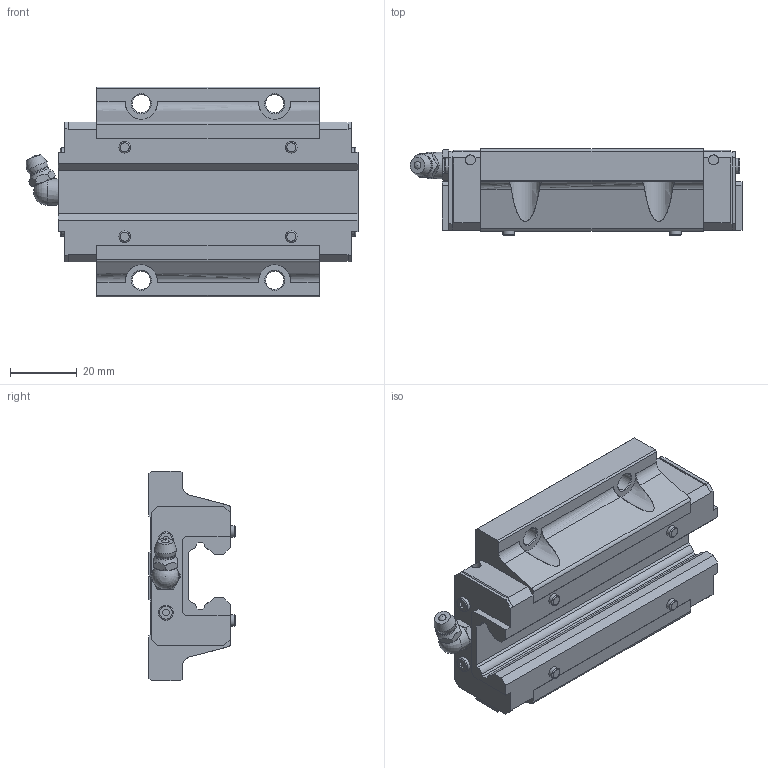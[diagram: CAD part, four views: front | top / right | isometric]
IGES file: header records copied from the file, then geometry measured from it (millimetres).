
Start section: Data from Parasolid IGES Translator 26.0.171, Copyright(c) 2006 Siemens PLM Software. All Rights Reserved.
Global section: file name: HSR20LC1SS(GK) BLOCK(1B-M6F).igs; native system: By Siemens PLM Incorporated; preprocessor: XPlus GENERIC/IGES 26.0.171; author: Noname; organization: Noname; date: 20240521.045839; units: millimetre
Bounding box: 99.6 x 26 x 63 mm (x, y, z)
Surface area: 20471.7 mm2 (no closed solid volume)
Topology: 0 solids, 0 shells, 249 faces, 1344 edges, 1287 vertices
Faces by surface type: extrusion 170, revolution 79
